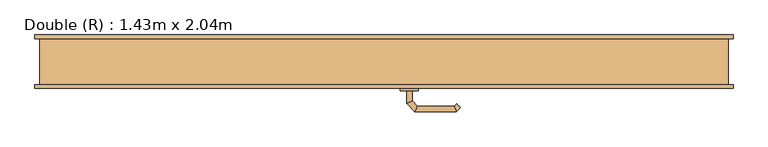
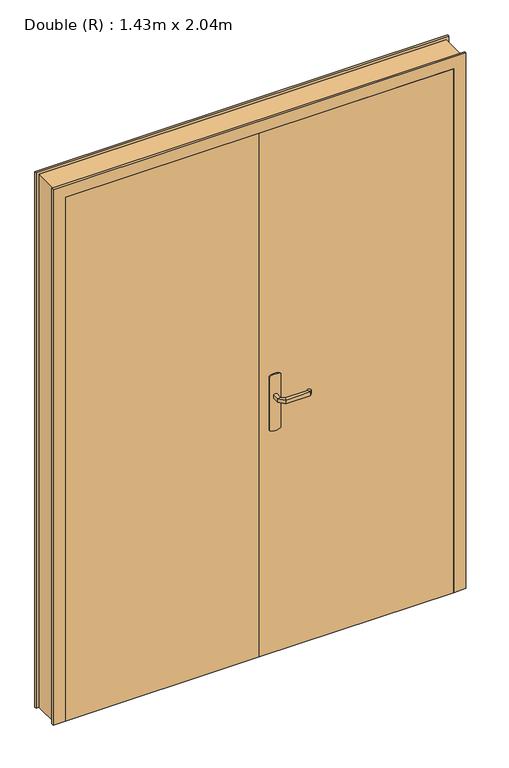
"""IFC4 building model written with IfcOpenShell, lengths in millimetres: door geometry, Double (R) : 1.43m x 2.04m."""

import ifcopenshell
import ifcopenshell.guid

model = None  # the IFC model being written
_history = None  # IfcOwnerHistory: only IFC2X3 demands one
_inside = {}  # id of a spatial element -> (the spatial element, [elements in it])
_under = {}  # id of a project, library or spatial element -> (it, [spatial elements below it])
_declared = {}  # id of a project -> (the project, [libraries it declares])
_typed = {}  # id of a type object -> (the type object, [elements of that type])
_made_of = {}  # id of a material, layer set ... -> (it, [elements and type objects made of it])


def new_model(schema):
    """Start an empty IFC model of exactly this schema.

    Asked for "IFC4X3", IfcOpenShell would pick the latest addendum, in which some entities
    have other attributes; the version numbers below select the first issue.
    IFC2X3 requires an IfcOwnerHistory on every rooted entity: one is made here for all.
    """
    global model, _history
    if schema == "IFC4X3":
        model = ifcopenshell.file(schema_version=(4, 3, 0, 0))
    else:
        model = ifcopenshell.file(schema=schema)
    _inside.clear()
    _under.clear()
    _declared.clear()
    _typed.clear()
    _made_of.clear()
    _history = None
    if model.schema == "IFC2X3":
        org = make("IfcOrganization", Name="unknown")
        user = make(
            "IfcPersonAndOrganization",
            ThePerson=make("IfcPerson", FamilyName="unknown"),
            TheOrganization=org,
        )
        app = make(
            "IfcApplication",
            ApplicationDeveloper=org,
            Version="unknown",
            ApplicationFullName="unknown",
            ApplicationIdentifier="unknown",
        )
        _history = make(
            "IfcOwnerHistory",
            OwningUser=user,
            OwningApplication=app,
            ChangeAction="ADDED",
            CreationDate=0,
        )
    return model


def make(cls, **values):
    """One entity of the class cls with the attributes given. An attribute that is None is left unset."""
    return model.create_entity(
        cls, **{name: value for name, value in values.items() if value is not None}
    )


def rooted(cls, **values):
    """An entity with a GlobalId (a new one), such as an element, a storey or a relation."""
    return make(cls, GlobalId=ifcopenshell.guid.new(), OwnerHistory=_history, **values)


def si_unit(unit_type, name, prefix=None):
    """IfcSIUnit, for example si_unit("LENGTHUNIT", "METRE", prefix="MILLI")."""
    return make("IfcSIUnit", UnitType=unit_type, Prefix=prefix, Name=name)


def assignment(units):
    """IfcUnitAssignment: the units of a project."""
    return None if units is None else make("IfcUnitAssignment", Units=units)


def point(xyz):
    """IfcCartesianPoint."""
    return None if xyz is None else make("IfcCartesianPoint", Coordinates=xyz)


def direction(xyz):
    """IfcDirection."""
    return None if xyz is None else make("IfcDirection", DirectionRatios=xyz)


def frame(location, z_axis=None, x_axis=None):
    """IfcAxis2Placement3D, a coordinate frame: its origin and axes. An axis left out is left unset."""
    return make(
        "IfcAxis2Placement3D",
        Location=point(location),
        Axis=direction(z_axis),
        RefDirection=direction(x_axis),
    )


def frame_2d(location, x_axis=None):
    """IfcAxis2Placement2D, a coordinate frame in the plane: its origin and x axis."""
    return make(
        "IfcAxis2Placement2D", Location=point(location), RefDirection=direction(x_axis)
    )


def origin():
    """The frame at (0, 0, 0) with its axes left unset."""
    return frame((0.0, 0.0, 0.0))


def origin_with_axes():
    """The frame at (0, 0, 0) with the z axis (0, 0, 1) and the x axis (1, 0, 0) written out."""
    return frame((0.0, 0.0, 0.0), z_axis=(0.0, 0.0, 1.0), x_axis=(1.0, 0.0, 0.0))


def place(relative_to, where):
    """IfcLocalPlacement: puts the frame where relative to a parent placement (None: the world)."""
    return make(
        "IfcLocalPlacement", PlacementRelTo=relative_to, RelativePlacement=where
    )


def context(
    kind, dimensions, precision=None, world=None, true_north=None, identifier=None
):
    """IfcGeometricRepresentationContext, for example the 3D "Model" context."""
    return make(
        "IfcGeometricRepresentationContext",
        ContextIdentifier=identifier,
        ContextType=kind,
        CoordinateSpaceDimension=dimensions,
        Precision=precision,
        WorldCoordinateSystem=world,
        TrueNorth=true_north,
    )


def project(units=None, contexts=None):
    """IfcProject with its units and contexts."""
    return rooted(
        "IfcProject",
        Name="project",
        RepresentationContexts=contexts,
        UnitsInContext=assignment(units),
    )


def spatial(cls, under=None, at=None, **own):
    """A site, building, storey or space (cls), placed at a placement, below another one or the project."""
    s = rooted(cls, ObjectPlacement=at, **own)
    if under is not None:
        _under.setdefault(under.id(), (under, []))[1].append(s)
    return s


def polyline(points):
    """IfcPolyline through the points."""
    return make("IfcPolyline", Points=[point(p) for p in points])


def circle_curve(where, radius):
    """IfcCircle in the frame where."""
    return make("IfcCircle", Position=where, Radius=radius)


def ellipse_curve(where, semi_axis1, semi_axis2):
    """IfcEllipse in the frame where."""
    return make(
        "IfcEllipse", Position=where, SemiAxis1=semi_axis1, SemiAxis2=semi_axis2
    )


def trimmed(basis, trim1, trim2, sense, master):
    """IfcTrimmedCurve: the piece of a basis curve between two trims."""
    return make(
        "IfcTrimmedCurve",
        BasisCurve=basis,
        Trim1=trim1,
        Trim2=trim2,
        SenseAgreement=sense,
        MasterRepresentation=master,
    )


def segment(curve, same_sense, transition):
    """IfcCompositeCurveSegment."""
    return make(
        "IfcCompositeCurveSegment",
        Transition=transition,
        SameSense=same_sense,
        ParentCurve=curve,
    )


def composite_curve(segments, self_intersect=None):
    """IfcCompositeCurve: segments joined end to end."""
    return make("IfcCompositeCurve", Segments=segments, SelfIntersect=self_intersect)


def outline(outer, holes=None, kind="AREA"):
    """IfcArbitraryClosedProfileDef: a profile drawn as a closed curve; with holes, ...WithVoids."""
    if holes is None:
        return make("IfcArbitraryClosedProfileDef", ProfileType=kind, OuterCurve=outer)
    return make(
        "IfcArbitraryProfileDefWithVoids",
        ProfileType=kind,
        OuterCurve=outer,
        InnerCurves=holes,
    )


def extrude(swept, where, along, depth):
    """IfcExtrudedAreaSolid: the profile swept, set in the frame where, extruded along a direction by depth."""
    return make(
        "IfcExtrudedAreaSolid",
        SweptArea=swept,
        Position=where,
        ExtrudedDirection=direction(along),
        Depth=depth,
    )


def faces_of(points, faces, orient=None, outer=None):
    """IfcFace entities. A face is a list of loops; a loop is a list of indices into points, from 0.

    orient and outer hold one flag for each loop. By default every Orientation is true, the
    first loop of a face is its IfcFaceOuterBound and the others are IfcFaceBound.
    """
    made = []
    for i, loops in enumerate(faces):
        bounds = []
        for j, loop in enumerate(loops):
            is_outer = j == 0 if outer is None else outer[i][j]
            bounds.append(
                make(
                    "IfcFaceOuterBound" if is_outer else "IfcFaceBound",
                    Bound=make("IfcPolyLoop", Polygon=[points[k] for k in loop]),
                    Orientation=True if orient is None else orient[i][j],
                )
            )
        made.append(make("IfcFace", Bounds=bounds))
    return made


def faceted_brep(points, faces, orient=None, outer=None, voids=None):
    """IfcFacetedBrep: a solid bounded by flat faces; with voids (closed shells), ...WithVoids."""
    shared = [point(p) for p in points]
    hull = make("IfcClosedShell", CfsFaces=faces_of(shared, faces, orient, outer))
    if voids is None:
        return make("IfcFacetedBrep", Outer=hull)
    return make(
        "IfcFacetedBrepWithVoids",
        Outer=hull,
        Voids=[
            make(cls, CfsFaces=faces_of(shared, fs, o, b)) for cls, fs, o, b in voids
        ],
    )


def shape(context_of_items, identifier, shape_type, items):
    """IfcShapeRepresentation: the items that make up one representation, for example the "Body"."""
    return make(
        "IfcShapeRepresentation",
        ContextOfItems=context_of_items,
        RepresentationIdentifier=identifier,
        RepresentationType=shape_type,
        Items=items,
    )


def source(mapping_origin, context_of_items, identifier, shape_type, items):
    """IfcRepresentationMap: a shape defined once, which mapped items show again and again."""
    return make(
        "IfcRepresentationMap",
        MappingOrigin=mapping_origin,
        MappedRepresentation=shape(context_of_items, identifier, shape_type, items),
    )


def transform(
    local_origin,
    x_axis=None,
    y_axis=None,
    z_axis=None,
    scale=None,
    scale2=None,
    scale3=None,
    uniform=True,
):
    """IfcCartesianTransformationOperator3D, or its non-uniform kind. x_axis, y_axis, z_axis: its Axis1, 2, 3."""
    if uniform:
        return make(
            "IfcCartesianTransformationOperator3D",
            Axis1=direction(x_axis),
            Axis2=direction(y_axis),
            LocalOrigin=point(local_origin),
            Scale=scale,
            Axis3=direction(z_axis),
        )
    return make(
        "IfcCartesianTransformationOperator3DnonUniform",
        Axis1=direction(x_axis),
        Axis2=direction(y_axis),
        LocalOrigin=point(local_origin),
        Scale=scale,
        Axis3=direction(z_axis),
        Scale2=scale2,
        Scale3=scale3,
    )


def mapped(mapping_source, mapping_target):
    """IfcMappedItem: shows the shape of a source again, moved by a transform."""
    return make(
        "IfcMappedItem", MappingSource=mapping_source, MappingTarget=mapping_target
    )


def made_of(thing, what):
    """Note that an element or type object is made of a material, layer set ...; save() writes the relation."""
    if what is not None:
        _made_of.setdefault(what.id(), (what, []))[1].append(thing)
    return thing


def element(
    cls,
    number,
    at=None,
    inside=None,
    cuts=None,
    type_object=None,
    material=None,
    context=None,
    identifier="Body",
    shape_type=None,
    held_by="IfcProductDefinitionShape",
    body=None,
    shapes=None,
    **own,
):
    """One element of the class cls, such as IfcWall. Its Tag is "e" and its number.

    at: its placement. inside: the storey or other place that contains it. cuts: it is an
    opening in that element (IfcRelVoidsElement). A single representation is given by context,
    identifier, shape_type and body (its items); several are given by shapes. held_by: the class
    of the entity that holds the representations. save() writes the other relations.
    """
    e = rooted(cls, Tag="e%d" % number, ObjectPlacement=at, **own)
    if body is not None:
        shapes = [shape(context, identifier, shape_type, body)]
    if shapes is not None:
        e.Representation = make(held_by, Representations=shapes)
    if inside is not None:
        _inside.setdefault(inside.id(), (inside, []))[1].append(e)
    if cuts is not None:
        rooted(
            "IfcRelVoidsElement", RelatingBuildingElement=cuts, RelatedOpeningElement=e
        )
    if type_object is not None:
        _typed.setdefault(type_object.id(), (type_object, []))[1].append(e)
    return made_of(e, material)


def aggregate(whole, parts):
    """IfcRelAggregates: a whole, such as a stair, and the parts it consists of."""
    return rooted("IfcRelAggregates", RelatingObject=whole, RelatedObjects=parts)


def save(model, path):
    """Write the relations noted so far, then the file.

    IfcRelAggregates (storeys below a building ...), IfcRelContainedInSpatialStructure (elements
    in a storey), IfcRelDefinesByType, IfcRelAssociatesMaterial and IfcRelDeclares: one each for
    every whole, place, type object, material and project.
    """
    for whole, parts in _under.values():
        aggregate(whole, parts)
    for where, things in _inside.values():
        rooted(
            "IfcRelContainedInSpatialStructure",
            RelatedElements=things,
            RelatingStructure=where,
        )
    for kind, things in _typed.values():
        rooted("IfcRelDefinesByType", RelatedObjects=things, RelatingType=kind)
    for what, things in _made_of.values():
        rooted("IfcRelAssociatesMaterial", RelatedObjects=things, RelatingMaterial=what)
    for by, libraries in _declared.values():
        rooted("IfcRelDeclares", RelatingContext=by, RelatedDefinitions=libraries)
    model.write(path)


def plane_surface(at):
    """IfcPlane: the flat surface through the origin of the frame at, square to its z axis."""
    return make("IfcPlane", Position=at)


def cylinder_surface(at, radius):
    """IfcCylindricalSurface: all points at the distance radius from the z axis of the frame at."""
    return make("IfcCylindricalSurface", Position=at, Radius=radius)


def advanced_brep(points, edges, surfaces, faces):
    """IfcAdvancedBrep: a solid bounded by faces that lie on surfaces and meet in shared edges.

    An edge is (start, end): straight between two places in points (the first is 0);
    or (start, end, curve); or (start, end, curve, False) where it runs against its curve.
    A face is (place in surfaces, loops), or (place, loops, False) where it looks against
    its surface's normal. A loop lists edges by number (the first is 1), with a minus sign
    where the edge is run from its end to its start. The first loop is the outer one.
    """
    corners = [point(p) for p in points]
    vertices = [make("IfcVertexPoint", VertexGeometry=c) for c in corners]
    made = []
    for start, end, *more in edges:
        made.append(
            make(
                "IfcEdgeCurve",
                EdgeStart=vertices[start],
                EdgeEnd=vertices[end],
                EdgeGeometry=more[0] if more else make("IfcPolyline", Points=[corners[start], corners[end]]),
                SameSense=more[1] if len(more) > 1 else True,
            )
        )
    hull = []
    for where, loops, *sense in faces:
        bounds = []
        for j, loop in enumerate(loops):
            ring = [make("IfcOrientedEdge", EdgeElement=made[abs(k) - 1], Orientation=k > 0) for k in loop]
            bounds.append(
                make(
                    "IfcFaceOuterBound" if j == 0 else "IfcFaceBound",
                    Bound=make("IfcEdgeLoop", EdgeList=ring),
                    Orientation=True,
                )
            )
        hull.append(make("IfcAdvancedFace", Bounds=bounds, FaceSurface=surfaces[where], SameSense=sense[0] if sense else True))
    return make("IfcAdvancedBrep", Outer=make("IfcClosedShell", CfsFaces=hull))


def double_r_1_43m_x_2_04m_b80630db(model_context):
    return source(origin(), model_context, "Body", "SolidModel", [
        advanced_brep(
        [(61.0, -13.0, 993.0), (61.0, -13.0, 1007.0), (49.0, -13.0, 1007.0), (49.0, -13.0, 993.0), (61.0, 9.4852045, 993.0), (61.0, 9.4852045, 1007.0), (49.0, 14.4557673, 1007.0), (49.0, 14.4557673, 993.0), (72.4852814, 20.9704859, 993.0), (72.4852814, 20.9704859, 1007.0), (67.5147186, 32.9704859, 1007.0), (67.5147186, 32.9704859, 993.0), (152.5605023, 20.9704859, 993.0), (152.5605023, 20.9704859, 1007.0), (157.531065, 32.9704859, 1007.0), (157.531065, 32.9704859, 993.0), (157.8742108, 15.6567774, 993.0), (166.3594922, 24.1420588, 993.0), (166.3594922, 24.1420588, 1007.0), (157.8742108, 15.6567774, 1007.0)],
        [
            (0, 1),
            (1, 2, circle_curve(frame((55.0, -13.0, 986.9542278), z_axis=(0.0, -1.0, 0.0), x_axis=(-1.0, 0.0, 0.0)), 20.9244589)),
            (2, 3),
            (3, 0, circle_curve(frame((55.0, -13.0, 1013.0457722), z_axis=(0.0, -1.0, 0.0), x_axis=(-1.0, 0.0, 0.0)), 20.9244589)),
            (0, 4),
            (4, 5),
            (5, 1),
            (5, 6, ellipse_curve(frame((55.0, 11.9704859, 986.9542278), z_axis=(-0.38268343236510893, -0.9238795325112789, 0.0), x_axis=(0.9238795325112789, -0.3826834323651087, 0.0)), 22.6484711, 20.9244589)),
            (6, 2),
            (6, 7),
            (7, 3),
            (7, 4, ellipse_curve(frame((55.0, 11.9704859, 1013.0457722), z_axis=(-0.38268343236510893, -0.9238795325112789, 0.0), x_axis=(0.9238795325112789, -0.3826834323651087, 0.0)), 22.6484711, 20.9244589)),
            (4, 8),
            (8, 9),
            (9, 5),
            (9, 10, ellipse_curve(frame((70.0, 26.9704859, 986.9542278), z_axis=(-0.9238795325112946, -0.38268343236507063, 0.0), x_axis=(0.3826834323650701, -0.9238795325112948, 0.0)), 22.6484711, 20.9244589)),
            (10, 6),
            (10, 11),
            (11, 7),
            (11, 8, ellipse_curve(frame((70.0, 26.9704859, 1013.0457722), z_axis=(-0.9238795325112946, -0.38268343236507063, 0.0), x_axis=(0.3826834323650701, -0.9238795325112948, 0.0)), 22.6484711, 20.9244589)),
            (8, 12),
            (12, 13),
            (13, 9),
            (13, 14, ellipse_curve(frame((155.0457837, 26.9704859, 986.9542278), z_axis=(-0.9238795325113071, 0.38268343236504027, 0.0), x_axis=(-0.38268343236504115, -0.9238795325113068, 0.0)), 22.6484711, 20.9244589)),
            (14, 10),
            (14, 15),
            (15, 11),
            (15, 12, ellipse_curve(frame((155.0457837, 26.9704859, 1013.0457722), z_axis=(-0.9238795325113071, 0.38268343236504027, 0.0), x_axis=(-0.38268343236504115, -0.9238795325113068, 0.0)), 22.6484711, 20.9244589)),
            (16, 17, circle_curve(frame((162.1168515, 19.8994181, 1013.0457722), z_axis=(0.7071067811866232, -0.7071067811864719, 0.0), x_axis=(0.7071067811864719, 0.7071067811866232, 0.0)), 20.9244589)),
            (17, 18),
            (18, 19, circle_curve(frame((162.1168515, 19.8994181, 986.9542278), z_axis=(0.7071067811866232, -0.7071067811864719, 0.0), x_axis=(0.7071067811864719, 0.7071067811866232, 0.0)), 20.9244589)),
            (19, 16),
            (12, 16),
            (19, 13),
            (18, 14),
            (17, 15),
        ],
        [
            plane_surface(frame((45.7804555, -13.0, 1000.0), z_axis=(0.0, -1.0, 0.0), x_axis=(0.0, 0.0, 1.0))),
            plane_surface(frame((61.0, -13.0, 993.0), z_axis=(1.0, 0.0, 0.0), x_axis=(0.0, 1.0, 0.0))),
            cylinder_surface(frame((55.0, -13.0, 986.9542278), z_axis=(0.0, -1.0, 0.0), x_axis=(-1.0, 0.0, 0.0)), 20.9244589),
            plane_surface(frame((49.0, -13.0, 1007.0), z_axis=(-1.0, 0.0, 0.0), x_axis=(0.0, 1.0, 0.0))),
            cylinder_surface(frame((55.0, -13.0, 1013.0457722), z_axis=(0.0, -1.0, 0.0), x_axis=(-1.0, 0.0, 0.0)), 20.9244589),
            plane_surface(frame((61.0, 9.4852045, 993.0), z_axis=(0.707106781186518, -0.707106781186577, 0.0), x_axis=(0.707106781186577, 0.707106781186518, 0.0))),
            cylinder_surface(frame((55.0, 11.9704859, 986.9542278), z_axis=(-0.7071067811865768, -0.7071067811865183, 0.0), x_axis=(-0.7071067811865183, 0.7071067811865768, 0.0)), 20.9244589),
            plane_surface(frame((49.0, 14.4557673, 1007.0), z_axis=(-0.7071067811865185, 0.7071067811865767, 0.0), x_axis=(0.7071067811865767, 0.7071067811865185, 0.0))),
            cylinder_surface(frame((55.0, 11.9704859, 1013.0457722), z_axis=(-0.7071067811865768, -0.7071067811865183, 0.0), x_axis=(-0.7071067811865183, 0.7071067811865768, 0.0)), 20.9244589),
            plane_surface(frame((72.4852814, 20.9704859, 993.0), z_axis=(0.0, -1.0, 0.0), x_axis=(1.0, 0.0, 0.0))),
            cylinder_surface(frame((70.0, 26.9704859, 986.9542278), z_axis=(-1.0, 0.0, 0.0), x_axis=(0.0, 1.0, 0.0)), 20.9244589),
            plane_surface(frame((67.5147186, 32.9704859, 1007.0), z_axis=(0.0, 1.0, 0.0), x_axis=(1.0, 0.0, 0.0))),
            cylinder_surface(frame((70.0, 26.9704859, 1013.0457722), z_axis=(-1.0, 0.0, 0.0), x_axis=(0.0, 1.0, 0.0)), 20.9244589),
            plane_surface(frame((162.1168515, 19.8994181, 990.7804555), z_axis=(0.7071067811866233, -0.7071067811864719, 0.0), x_axis=(0.7071067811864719, 0.7071067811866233, 0.0))),
            plane_surface(frame((152.5605023, 20.9704859, 993.0), z_axis=(-0.707106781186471, -0.7071067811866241, 0.0), x_axis=(0.7071067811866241, -0.707106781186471, 0.0))),
            cylinder_surface(frame((155.0457837, 26.9704859, 986.9542278), z_axis=(-0.7071067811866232, 0.7071067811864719, 0.0), x_axis=(0.7071067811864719, 0.7071067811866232, 0.0)), 20.9244589),
            plane_surface(frame((157.531065, 32.9704859, 1007.0), z_axis=(0.7071067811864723, 0.7071067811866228, 0.0), x_axis=(0.7071067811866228, -0.7071067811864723, 0.0))),
            cylinder_surface(frame((155.0457837, 26.9704859, 1013.0457722), z_axis=(-0.7071067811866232, 0.7071067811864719, 0.0), x_axis=(0.7071067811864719, 0.7071067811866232, 0.0)), 20.9244589),
        ],
        [
            (0, [[1, 2, 3, 4]]),
            (1, [[-1, 5, 6, 7]]),
            (2, [[-2, -7, 8, 9]]),
            (3, [[-3, -9, 10, 11]]),
            (4, [[-4, -11, 12, -5]]),
            (5, [[-6, 13, 14, 15]]),
            (6, [[-8, -15, 16, 17]]),
            (7, [[-10, -17, 18, 19]]),
            (8, [[-12, -19, 20, -13]]),
            (9, [[-14, 21, 22, 23]]),
            (10, [[-16, -23, 24, 25]]),
            (11, [[-18, -25, 26, 27]]),
            (12, [[-20, -27, 28, -21]]),
            (13, [[29, 30, 31, 32]]),
            (14, [[-22, 33, -32, 34]]),
            (15, [[-24, -34, -31, 35]]),
            (16, [[-26, -35, -30, 36]]),
            (17, [[-28, -36, -29, -33]]),
        ],
    ),
        advanced_brep(
        [(49.0, -63.0, 1007.0), (61.0, -63.0, 1007.0), (61.0, -63.0, 993.0), (49.0, -63.0, 993.0), (49.0, -90.6509507, 1007.0), (61.0, -85.680388, 1007.0), (61.0, -85.680388, 993.0), (49.0, -90.6509507, 993.0), (67.37721, -109.0281607, 1007.0), (72.3477727, -97.0281607, 1007.0), (72.3477727, -97.0281607, 993.0), (67.37721, -109.0281607, 993.0), (157.503922, -109.0281607, 1007.0), (152.5333592, -97.0281607, 1007.0), (152.5333592, -97.0281607, 993.0), (157.503922, -109.0281607, 993.0), (166.3323491, -100.1997336, 1007.0), (166.3323491, -100.1997336, 993.0), (157.8470677, -91.7144522, 993.0), (157.8470677, -91.7144522, 1007.0)],
        [
            (0, 1, circle_curve(frame((55.0, -63.0, 986.9542278), z_axis=(0.0, 1.0, 0.0), x_axis=(1.0, 0.0, 0.0)), 20.9244589)),
            (1, 2),
            (2, 3, circle_curve(frame((55.0, -63.0, 1013.0457722), z_axis=(0.0, 1.0, 0.0), x_axis=(1.0, 0.0, 0.0)), 20.9244589)),
            (3, 0),
            (0, 4),
            (4, 5, ellipse_curve(frame((55.0, -88.1656693, 986.9542278), z_axis=(-0.3826834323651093, 0.9238795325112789, 0.0), x_axis=(0.9238795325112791, 0.38268343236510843, 0.0)), 22.6484711, 20.9244589)),
            (5, 1),
            (5, 6),
            (6, 2),
            (6, 7, ellipse_curve(frame((55.0, -88.1656693, 1013.0457722), z_axis=(-0.3826834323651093, 0.9238795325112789, 0.0), x_axis=(0.9238795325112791, 0.38268343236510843, 0.0)), 22.6484711, 20.9244589)),
            (7, 3),
            (7, 4),
            (4, 8),
            (8, 9, ellipse_curve(frame((69.8624914, -103.0281607, 986.9542278), z_axis=(-0.9238795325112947, 0.38268343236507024, 0.0), x_axis=(0.3826834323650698, 0.9238795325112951, 0.0)), 22.6484711, 20.9244589)),
            (9, 5),
            (9, 10),
            (10, 6),
            (10, 11, ellipse_curve(frame((69.8624914, -103.0281607, 1013.0457722), z_axis=(-0.9238795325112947, 0.38268343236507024, 0.0), x_axis=(0.3826834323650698, 0.9238795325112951, 0.0)), 22.6484711, 20.9244589)),
            (11, 7),
            (11, 8),
            (8, 12),
            (12, 13, ellipse_curve(frame((155.0186406, -103.0281607, 986.9542278), z_axis=(-0.9238795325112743, -0.3826834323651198, 0.0), x_axis=(-0.38268343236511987, 0.9238795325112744, 0.0)), 22.6484711, 20.9244589)),
            (13, 9),
            (13, 14),
            (14, 10),
            (14, 15, ellipse_curve(frame((155.0186406, -103.0281607, 1013.0457722), z_axis=(-0.9238795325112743, -0.3826834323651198, 0.0), x_axis=(-0.38268343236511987, 0.9238795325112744, 0.0)), 22.6484711, 20.9244589)),
            (15, 11),
            (15, 12),
            (16, 17),
            (17, 18, circle_curve(frame((162.0897084, -95.9570929, 1013.0457722), z_axis=(0.7071067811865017, 0.7071067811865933, 0.0), x_axis=(-0.7071067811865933, 0.7071067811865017, 0.0)), 20.9244589)),
            (18, 19),
            (19, 16, circle_curve(frame((162.0897084, -95.9570929, 986.9542278), z_axis=(0.7071067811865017, 0.7071067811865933, 0.0), x_axis=(-0.7071067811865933, 0.7071067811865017, 0.0)), 20.9244589)),
            (12, 16),
            (19, 13),
            (18, 14),
            (17, 15),
        ],
        [
            plane_surface(frame((45.7804555, -63.0, 1000.0), z_axis=(0.0, 1.0, 0.0), x_axis=(0.0, 0.0, -1.0))),
            cylinder_surface(frame((55.0, -63.0, 986.9542278), z_axis=(0.0, 1.0, 0.0), x_axis=(1.0, 0.0, 0.0)), 20.9244589),
            plane_surface(frame((61.0, -63.0, 1007.0), z_axis=(1.0, 0.0, 0.0), x_axis=(0.0, -1.0, 0.0))),
            cylinder_surface(frame((55.0, -63.0, 1013.0457722), z_axis=(0.0, 1.0, 0.0), x_axis=(1.0, 0.0, 0.0)), 20.9244589),
            plane_surface(frame((49.0, -63.0, 993.0), z_axis=(-1.0, 0.0, 0.0), x_axis=(0.0, -1.0, 0.0))),
            cylinder_surface(frame((55.0, -88.1656693, 986.9542278), z_axis=(-0.7071067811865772, 0.7071067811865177, 0.0), x_axis=(0.7071067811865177, 0.7071067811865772, 0.0)), 20.9244589),
            plane_surface(frame((61.0, -85.680388, 1007.0), z_axis=(0.7071067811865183, 0.7071067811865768, 0.0), x_axis=(0.7071067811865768, -0.7071067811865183, 0.0))),
            cylinder_surface(frame((55.0, -88.1656693, 1013.0457722), z_axis=(-0.7071067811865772, 0.7071067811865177, 0.0), x_axis=(0.7071067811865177, 0.7071067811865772, 0.0)), 20.9244589),
            plane_surface(frame((49.0, -90.6509507, 993.0), z_axis=(-0.707106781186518, -0.707106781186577, 0.0), x_axis=(0.707106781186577, -0.707106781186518, 0.0))),
            cylinder_surface(frame((69.8624914, -103.0281607, 986.9542278), z_axis=(-1.0, 0.0, 0.0), x_axis=(0.0, 1.0, 0.0)), 20.9244589),
            plane_surface(frame((72.3477727, -97.0281607, 1007.0), z_axis=(0.0, 1.0, 0.0), x_axis=(1.0, 0.0, 0.0))),
            cylinder_surface(frame((69.8624914, -103.0281607, 1013.0457722), z_axis=(-1.0, 0.0, 0.0), x_axis=(0.0, 1.0, 0.0)), 20.9244589),
            plane_surface(frame((67.37721, -109.0281607, 993.0), z_axis=(0.0, -1.0, 0.0), x_axis=(1.0, 0.0, 0.0))),
            plane_surface(frame((162.0897084, -95.9570929, 1009.2195445), z_axis=(0.7071067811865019, 0.7071067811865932, 0.0), x_axis=(0.7071067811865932, -0.7071067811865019, 0.0))),
            cylinder_surface(frame((155.0186406, -103.0281607, 986.9542278), z_axis=(-0.7071067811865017, -0.7071067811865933, 0.0), x_axis=(-0.7071067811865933, 0.7071067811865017, 0.0)), 20.9244589),
            plane_surface(frame((152.5333592, -97.0281607, 1007.0), z_axis=(-0.7071067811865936, 0.7071067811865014, 0.0), x_axis=(0.7071067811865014, 0.7071067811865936, 0.0))),
            cylinder_surface(frame((155.0186406, -103.0281607, 1013.0457722), z_axis=(-0.7071067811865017, -0.7071067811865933, 0.0), x_axis=(-0.7071067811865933, 0.7071067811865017, 0.0)), 20.9244589),
            plane_surface(frame((157.503922, -109.0281607, 993.0), z_axis=(0.707106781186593, -0.7071067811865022, 0.0), x_axis=(0.7071067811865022, 0.707106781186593, 0.0))),
        ],
        [
            (0, [[1, 2, 3, 4]]),
            (1, [[-1, 5, 6, 7]]),
            (2, [[-2, -7, 8, 9]]),
            (3, [[-3, -9, 10, 11]]),
            (4, [[-4, -11, 12, -5]]),
            (5, [[-6, 13, 14, 15]]),
            (6, [[-8, -15, 16, 17]]),
            (7, [[-10, -17, 18, 19]]),
            (8, [[-12, -19, 20, -13]]),
            (9, [[-14, 21, 22, 23]]),
            (10, [[-16, -23, 24, 25]]),
            (11, [[-18, -25, 26, 27]]),
            (12, [[-20, -27, 28, -21]]),
            (13, [[29, 30, 31, 32]]),
            (14, [[-22, 33, -32, 34]]),
            (15, [[-24, -34, -31, 35]]),
            (16, [[-26, -35, -30, 36]]),
            (17, [[-28, -36, -29, -33]]),
        ],
    ),
        extrude(outline(composite_curve([segment(trimmed(circle_curve(frame_2d((1045.3589838, 55.0)), 40.0), [point((1080.0, 75.0))], [point((1080.0, 35.0))], False, "CARTESIAN"), True, "CONTINUOUS"), segment(polyline([(1080.0, 35.0), (870.0, 35.0)]), True, "CONTINUOUS"), segment(trimmed(circle_curve(frame_2d((904.6410162, 55.0)), 40.0), [point((870.0, 35.0))], [point((870.0, 75.0))], False, "CARTESIAN"), True, "CONTINUOUS"), segment(polyline([(870.0, 75.0), (1080.0, 75.0)]), True, "CONTINUOUS")], self_intersect=False)), frame((0.0, -18.0, 0.0), z_axis=(0.0, 1.0, 0.0), x_axis=(0.0, 0.0, 1.0)), (0.0, 0.0, 1.0), 5.0),
        extrude(outline(composite_curve([segment(trimmed(circle_curve(frame_2d((904.6410162, 55.0)), 40.0), [point((870.0, 35.0))], [point((870.0, 75.0))], False, "CARTESIAN"), True, "CONTINUOUS"), segment(polyline([(870.0, 75.0), (1080.0, 75.0)]), True, "CONTINUOUS"), segment(trimmed(circle_curve(frame_2d((1045.3589838, 55.0)), 40.0), [point((1080.0, 75.0))], [point((1080.0, 35.0))], False, "CARTESIAN"), True, "CONTINUOUS"), segment(polyline([(1080.0, 35.0), (870.0, 35.0)]), True, "CONTINUOUS")], self_intersect=False)), frame((0.0, -63.0, 0.0), z_axis=(0.0, 1.0, 0.0), x_axis=(0.0, 0.0, 1.0)), (0.0, 0.0, 1.0), 5.0),
        faceted_brep([(-750.0, -50.0, 0.0), (-750.0, 50.0, 0.0), (-760.0, 50.0, 0.0), (-760.0, 58.0, 0.0), (-700.0, 58.0, 0.0), (-700.0, -18.0, 0.0), (-715.0, -18.0, 0.0), (-715.0, -58.0, 0.0), (-760.0, -58.0, 0.0), (-760.0, -50.0, 0.0), (-750.0, -50.0, 2075.0), (-750.0, 50.0, 2075.0), (750.0, 50.0, 2075.0), (750.0, 50.0, 0.0), (760.0, 50.0, 0.0), (760.0, 50.0, 2085.0), (-760.0, 50.0, 2085.0), (-760.0, 58.0, 2085.0), (760.0, 58.0, 2085.0), (760.0, 58.0, 0.0), (700.0, 58.0, 0.0), (700.0, 58.0, 2025.0), (-700.0, 58.0, 2025.0), (-700.0, -18.0, 2025.0), (700.0, -18.0, 2025.0), (700.0, -18.0, 0.0), (715.0, -18.0, 0.0), (715.0, -18.0, 2040.0), (-715.0, -18.0, 2040.0), (-715.0, -58.0, 2040.0), (715.0, -58.0, 2040.0), (715.0, -58.0, 0.0), (760.0, -58.0, 0.0), (760.0, -58.0, 2085.0), (-760.0, -58.0, 2085.0), (-760.0, -50.0, 2085.0), (760.0, -50.0, 2085.0), (760.0, -50.0, 0.0), (750.0, -50.0, 0.0), (750.0, -50.0, 2075.0)], [[[0, 1, 2, 3, 4, 5, 6, 7, 8, 9]], [[1, 0, 10, 11]], [[2, 1, 11, 12, 13, 14, 15, 16]], [[3, 2, 16, 17]], [[4, 3, 17, 18, 19, 20, 21, 22]], [[5, 4, 22, 23]], [[6, 5, 23, 24, 25, 26, 27, 28]], [[7, 6, 28, 29]], [[8, 7, 29, 30, 31, 32, 33, 34]], [[9, 8, 34, 35]], [[0, 9, 35, 36, 37, 38, 39, 10]], [[12, 39, 38, 13]], [[38, 37, 32, 31, 26, 25, 20, 19, 14, 13]], [[18, 15, 14, 19]], [[24, 21, 20, 25]], [[30, 27, 26, 31]], [[36, 33, 32, 37]], [[11, 10, 39, 12]], [[17, 16, 15, 18]], [[23, 22, 21, 24]], [[29, 28, 27, 30]], [[35, 34, 33, 36]]]),
        extrude(outline(polyline([(715.0, -58.0), (0.0, -58.0), (0.0, -18.0), (715.0, -18.0), (715.0, -58.0)])), origin_with_axes(), (0.0, 0.0, 1.0), 2040.0),
        extrude(outline(polyline([(0.0, -58.0), (-715.0, -58.0), (-715.0, -18.0), (0.0, -18.0), (0.0, -58.0)])), origin_with_axes(), (0.0, 0.0, 1.0), 2040.0),
    ])


if __name__ == "__main__":
    model = new_model("IFC4")
    model_context = context("Model", 3, world=origin())
    ifc_project = project(units=[si_unit("LENGTHUNIT", "METRE", prefix="MILLI")], contexts=[model_context])
    site = spatial("IfcSite", under=ifc_project)
    building = spatial("IfcBuilding", under=site)
    placement = place(None, origin())
    double_r_1_43m_x_2_04m_shape = double_r_1_43m_x_2_04m_b80630db(model_context)
    element("IfcDoor", 1, ObjectType="Double (R) : 1.43m x 2.04m", at=placement, inside=building, context=model_context, shape_type="MappedRepresentation", body=[
        mapped(double_r_1_43m_x_2_04m_shape, transform((0.0, 0.0, 0.0), x_axis=(1.0, 0.0, 0.0), y_axis=(0.0, 1.0, 0.0), z_axis=(0.0, 0.0, 1.0))),
    ])
    save(model, "model.ifc")
